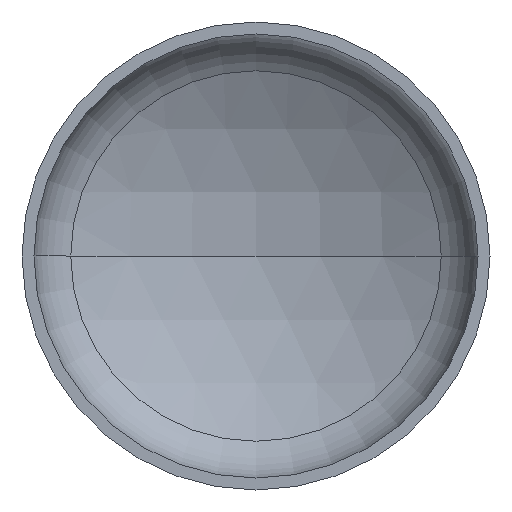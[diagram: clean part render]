
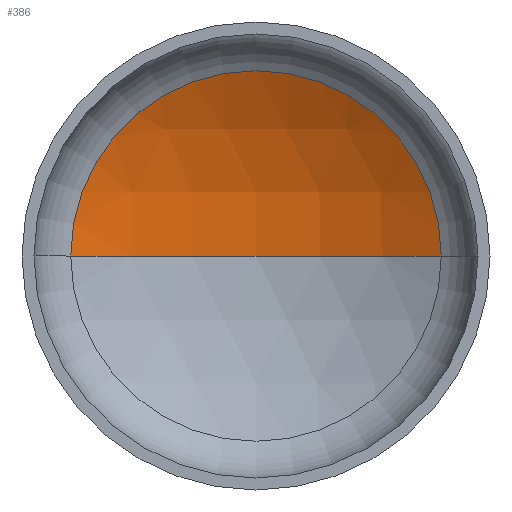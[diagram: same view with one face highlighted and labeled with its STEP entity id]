
A CAD part, front view. The second image highlights one B-rep face of the part: STEP entity #386.
In plain terms, the highlighted spherical face has radius 720 mm.
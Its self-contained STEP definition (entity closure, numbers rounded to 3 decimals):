
#6 = CIRCLE ( 'NONE', #218, 720. ) ;
#7 = AXIS2_PLACEMENT_3D ( 'NONE', #334, #233, #137 ) ;
#13 = EDGE_LOOP ( 'NONE', ( #123, #307, #113 ) ) ;
#51 = CIRCLE ( 'NONE', #7, 356.276 ) ;
#80 = DIRECTION ( 'NONE',  ( -1., 0., 0. ) ) ;
#113 = ORIENTED_EDGE ( 'NONE', *, *, #342, .T. ) ;
#115 = VERTEX_POINT ( 'NONE', #343 ) ;
#123 = ORIENTED_EDGE ( 'NONE', *, *, #382, .F. ) ;
#137 = DIRECTION ( 'NONE',  ( 1., 0., 0. ) ) ;
#175 = VERTEX_POINT ( 'NONE', #294 ) ;
#178 = CARTESIAN_POINT ( 'NONE',  ( 356.276, 191.659, 0. ) ) ;
#205 = AXIS2_PLACEMENT_3D ( 'NONE', #407, #259, #367 ) ;
#210 = CARTESIAN_POINT ( 'NONE',  ( 0., -434.015, 0. ) ) ;
#218 = AXIS2_PLACEMENT_3D ( 'NONE', #231, #405, #258 ) ;
#223 = CIRCLE ( 'NONE', #205, 720. ) ;
#231 = CARTESIAN_POINT ( 'NONE',  ( 0., -434.015, 0. ) ) ;
#232 = DIRECTION ( 'NONE',  ( 0., 0., -1. ) ) ;
#233 = DIRECTION ( 'NONE',  ( 0., -1., 0. ) ) ;
#253 = AXIS2_PLACEMENT_3D ( 'NONE', #210, #232, #80 ) ;
#258 = DIRECTION ( 'NONE',  ( 1., 0., 0. ) ) ;
#259 = DIRECTION ( 'NONE',  ( 0., 0., -1. ) ) ;
#279 = SPHERICAL_SURFACE ( 'NONE', #253, 720. ) ;
#294 = CARTESIAN_POINT ( 'NONE',  ( 0., 285.985, 0. ) ) ;
#307 = ORIENTED_EDGE ( 'NONE', *, *, #375, .T. ) ;
#334 = CARTESIAN_POINT ( 'NONE',  ( 0., 191.659, 0. ) ) ;
#342 = EDGE_CURVE ( 'NONE', #379, #115, #51, .T. ) ;
#343 = CARTESIAN_POINT ( 'NONE',  ( -356.276, 191.659, 0. ) ) ;
#357 = FACE_OUTER_BOUND ( 'NONE', #13, .T. ) ;
#367 = DIRECTION ( 'NONE',  ( -1., 0., 0. ) ) ;
#375 = EDGE_CURVE ( 'NONE', #175, #379, #223, .T. ) ;
#379 = VERTEX_POINT ( 'NONE', #178 ) ;
#382 = EDGE_CURVE ( 'NONE', #175, #115, #6, .T. ) ;
#386 = ADVANCED_FACE ( 'NONE', ( #357 ), #279, .F. ) ;
#405 = DIRECTION ( 'NONE',  ( 0., 0., 1. ) ) ;
#407 = CARTESIAN_POINT ( 'NONE',  ( 0., -434.015, 0. ) ) ;
